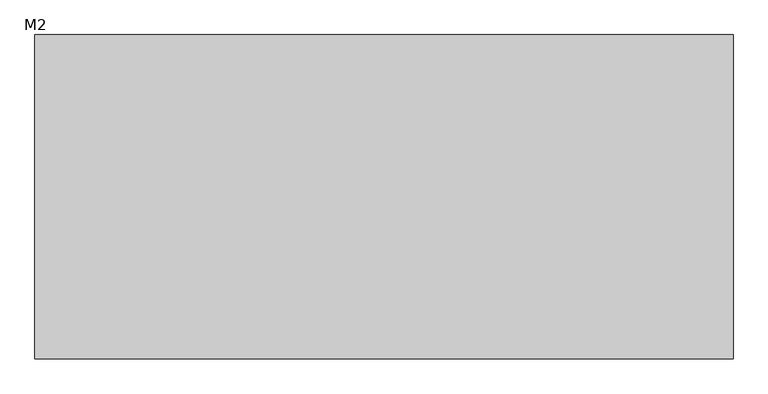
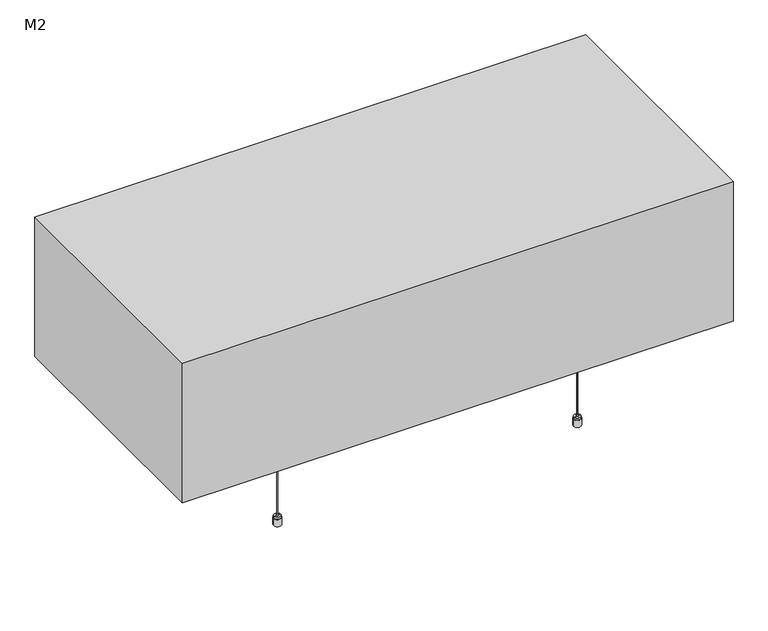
"""IFC4 building model written with IfcOpenShell, lengths in millimetres: proxy geometry, OWA Corpus : M2."""

from ifc_helpers import new_model, si_unit, point, frame, frame_2d, origin, place, context, project, spatial, polyline, circle_curve, trimmed, segment, composite_curve, outline, extrude, faceted_brep, source, transform, mapped, element, save
from ifc_brep_helpers import plane_surface, cylinder_surface, revolved_surface, advanced_brep


def m2_2ed46d6e(model_context):
    return source(origin(), model_context, "Body", "SolidModel", [
        advanced_brep(
        [(-128.5, -152.5, 0.0), (-120.7593825, -152.5, 0.0), (-136.2406175, -152.5, 0.0), (-120.7593825, -152.5, 15.0), (-136.2406175, -152.5, 15.0), (-121.6843825, -152.5, 15.0), (-135.3156175, -152.5, 15.0), (-121.6843825, -152.5, 19.0), (-135.3156175, -152.5, 19.0), (-126.4343825, -152.5, 19.0), (-130.5656175, -152.5, 19.0), (-126.4343825, -152.5, 22.546183), (-130.5656175, -152.5, 22.546183), (-128.5, -152.5, 22.546183)],
        [
            (0, 1),
            (1, 2, circle_curve(frame((-128.5, -152.5, 0.0), z_axis=(0.0, 0.0, -1.0), x_axis=(-1.0, 0.0, 0.0)), 7.7406175)),
            (2, 0),
            (2, 1, circle_curve(frame((-128.5, -152.5, 0.0), z_axis=(0.0, 0.0, -1.0), x_axis=(-1.0, 0.0, 0.0)), 7.7406175)),
            (1, 3),
            (3, 4, circle_curve(frame((-128.5, -152.5, 15.0), z_axis=(0.0, 0.0, -1.0), x_axis=(-1.0, 0.0, 0.0)), 7.7406175)),
            (4, 2),
            (4, 3, circle_curve(frame((-128.5, -152.5, 15.0), z_axis=(0.0, 0.0, -1.0), x_axis=(-1.0, 0.0, 0.0)), 7.7406175)),
            (3, 5),
            (5, 6, circle_curve(frame((-128.5, -152.5, 15.0), z_axis=(0.0, 0.0, -1.0), x_axis=(-1.0, 0.0, 0.0)), 6.8156175)),
            (6, 4),
            (6, 5, circle_curve(frame((-128.5, -152.5, 15.0), z_axis=(0.0, 0.0, -1.0), x_axis=(-1.0, 0.0, 0.0)), 6.8156175)),
            (5, 7),
            (7, 8, circle_curve(frame((-128.5, -152.5, 19.0), z_axis=(0.0, 0.0, -1.0), x_axis=(-1.0, 0.0, 0.0)), 6.8156175)),
            (8, 6),
            (8, 7, circle_curve(frame((-128.5, -152.5, 19.0), z_axis=(0.0, 0.0, -1.0), x_axis=(-1.0, 0.0, 0.0)), 6.8156175)),
            (7, 9),
            (9, 10, circle_curve(frame((-128.5, -152.5, 19.0), z_axis=(0.0, 0.0, -1.0), x_axis=(-1.0, 0.0, 0.0)), 2.0656175)),
            (10, 8),
            (10, 9, circle_curve(frame((-128.5, -152.5, 19.0), z_axis=(0.0, 0.0, -1.0), x_axis=(-1.0, 0.0, 0.0)), 2.0656175)),
            (9, 11),
            (11, 12, circle_curve(frame((-128.5, -152.5, 22.546183), z_axis=(0.0, 0.0, -1.0), x_axis=(-1.0, 0.0, 0.0)), 2.0656175)),
            (12, 10),
            (12, 11, circle_curve(frame((-128.5, -152.5, 22.546183), z_axis=(0.0, 0.0, -1.0), x_axis=(-1.0, 0.0, 0.0)), 2.0656175)),
            (11, 13),
            (13, 12),
        ],
        [
            plane_surface(frame((-128.5, -152.5, 0.0), z_axis=(0.0, 0.0, -1.0), x_axis=(-1.0, 0.0, 0.0))),
            cylinder_surface(frame((-128.5, -152.5, -10.0), z_axis=(0.0, 0.0, -1.0), x_axis=(-1.0, 0.0, 0.0)), 7.7406175),
            plane_surface(frame((-128.5, -152.5, 15.0), z_axis=(0.0, 0.0, 1.0), x_axis=(-1.0, 0.0, 0.0))),
            cylinder_surface(frame((-128.5, -152.5, -10.0), z_axis=(0.0, 0.0, -1.0), x_axis=(-1.0, 0.0, 0.0)), 6.8156175),
            plane_surface(frame((-128.5, -152.5, 19.0), z_axis=(0.0, 0.0, 1.0), x_axis=(-1.0, 0.0, 0.0))),
            cylinder_surface(frame((-128.5, -152.5, -10.0), z_axis=(0.0, 0.0, -1.0), x_axis=(-1.0, 0.0, 0.0)), 2.0656175),
            plane_surface(frame((-128.5, -152.5, 22.546183), z_axis=(0.0, 0.0, 1.0), x_axis=(-1.0, 0.0, 0.0))),
        ],
        [
            (0, [[1, 2, 3]]),
            (0, [[-3, 4, -1]]),
            (1, [[5, 6, 7, -2]]),
            (1, [[-7, 8, -5, -4]]),
            (2, [[9, 10, 11, -6]]),
            (2, [[-11, 12, -9, -8]]),
            (3, [[13, 14, 15, -10]]),
            (3, [[-15, 16, -13, -12]]),
            (4, [[17, 18, 19, -14]]),
            (4, [[-19, 20, -17, -16]]),
            (5, [[21, 22, 23, -18]]),
            (5, [[-23, 24, -21, -20]]),
            (6, [[25, 26, -22]]),
            (6, [[-26, -25, -24]]),
        ],
    ),
        advanced_brep(
        [(-126.2615389, -152.5, 428.8211737), (-126.1339453, -152.5, 432.8711737), (-130.8660547, -152.5, 432.8711737), (-130.7384611, -152.5, 428.8211737), (-123.6339453, -152.5, 432.8711737), (-133.3660547, -152.5, 432.8711737), (-123.6339453, -152.5, 458.1211737), (-133.3660547, -152.5, 458.1211737), (-112.6339453, -152.5, 458.1211737), (-144.3660547, -152.5, 458.1211737), (-112.6339453, -152.5, 460.0), (-144.3660547, -152.5, 460.0), (-128.5, -152.5, 460.0), (-128.5, -152.5, 428.8211737)],
        [
            (0, 1),
            (1, 2, circle_curve(frame((-128.5, -152.5, 432.8711737), z_axis=(0.0, 0.0, -1.0), x_axis=(-1.0, 0.0, 0.0)), 2.3660547)),
            (2, 3),
            (3, 0, circle_curve(frame((-128.5, -152.5, 428.8211737), z_axis=(0.0, 0.0, 1.0), x_axis=(-1.0, 0.0, 0.0)), 2.2384611)),
            (2, 1, circle_curve(frame((-128.5, -152.5, 432.8711737), z_axis=(0.0, 0.0, -1.0), x_axis=(-1.0, 0.0, 0.0)), 2.3660547)),
            (0, 3, circle_curve(frame((-128.5, -152.5, 428.8211737), z_axis=(0.0, 0.0, 1.0), x_axis=(-1.0, 0.0, 0.0)), 2.2384611)),
            (1, 4),
            (4, 5, circle_curve(frame((-128.5, -152.5, 432.8711737), z_axis=(0.0, 0.0, -1.0), x_axis=(-1.0, 0.0, 0.0)), 4.8660547)),
            (5, 2),
            (5, 4, circle_curve(frame((-128.5, -152.5, 432.8711737), z_axis=(0.0, 0.0, -1.0), x_axis=(-1.0, 0.0, 0.0)), 4.8660547)),
            (4, 6),
            (6, 7, circle_curve(frame((-128.5, -152.5, 458.1211737), z_axis=(0.0, 0.0, -1.0), x_axis=(-1.0, 0.0, 0.0)), 4.8660547)),
            (7, 5),
            (7, 6, circle_curve(frame((-128.5, -152.5, 458.1211737), z_axis=(0.0, 0.0, -1.0), x_axis=(-1.0, 0.0, 0.0)), 4.8660547)),
            (6, 8),
            (8, 9, circle_curve(frame((-128.5, -152.5, 458.1211737), z_axis=(0.0, 0.0, -1.0), x_axis=(-1.0, 0.0, 0.0)), 15.8660547)),
            (9, 7),
            (9, 8, circle_curve(frame((-128.5, -152.5, 458.1211737), z_axis=(0.0, 0.0, -1.0), x_axis=(-1.0, 0.0, 0.0)), 15.8660547)),
            (8, 10),
            (10, 11, circle_curve(frame((-128.5, -152.5, 460.0), z_axis=(0.0, 0.0, -1.0), x_axis=(-1.0, 0.0, 0.0)), 15.8660547)),
            (11, 9),
            (11, 10, circle_curve(frame((-128.5, -152.5, 460.0), z_axis=(0.0, 0.0, -1.0), x_axis=(-1.0, 0.0, 0.0)), 15.8660547)),
            (10, 12),
            (12, 11),
            (13, 0),
            (3, 13),
        ],
        [
            revolved_surface(polyline([(-130.8660547, -152.5, 432.8711737), (-130.7384611, -152.5, 428.8211737)]), (-128.5, -152.5, 461.8401096), (0.0, 0.0, -1.0)),
            plane_surface(frame((-128.5, -152.5, 432.8711737), z_axis=(0.0, 0.0, -1.0), x_axis=(-1.0, 0.0, 0.0))),
            cylinder_surface(frame((-128.5, -152.5, 461.8401096), z_axis=(0.0, 0.0, -1.0), x_axis=(-1.0, 0.0, 0.0)), 4.8660547),
            plane_surface(frame((-128.5, -152.5, 458.1211737), z_axis=(0.0, 0.0, -1.0), x_axis=(-1.0, 0.0, 0.0))),
            cylinder_surface(frame((-128.5, -152.5, 461.8401096), z_axis=(0.0, 0.0, -1.0), x_axis=(-1.0, 0.0, 0.0)), 15.8660547),
            plane_surface(frame((-128.5, -152.5, 460.0), z_axis=(0.0, 0.0, 1.0), x_axis=(-1.0, 0.0, 0.0))),
            plane_surface(frame((-128.5, -152.5, 428.8211737), z_axis=(0.0, 0.0, -1.0), x_axis=(-1.0, 0.0, 0.0))),
        ],
        [
            (0, [[1, 2, 3, 4]]),
            (0, [[-3, 5, -1, 6]]),
            (1, [[7, 8, 9, -2]]),
            (1, [[-9, 10, -7, -5]]),
            (2, [[11, 12, 13, -8]]),
            (2, [[-13, 14, -11, -10]]),
            (3, [[15, 16, 17, -12]]),
            (3, [[-17, 18, -15, -14]]),
            (4, [[19, 20, 21, -16]]),
            (4, [[-21, 22, -19, -18]]),
            (5, [[23, 24, -20]]),
            (5, [[-24, -23, -22]]),
            (6, [[25, -4, 26]]),
            (6, [[-26, -6, -25]]),
        ],
    ),
        extrude(outline(composite_curve([segment(trimmed(circle_curve(frame_2d((-128.5, -152.5)), 1.0), [point((-129.5, -152.5))], [point((-127.5, -152.5))], False, "CARTESIAN"), True, "CONTINUOUS"), segment(trimmed(circle_curve(frame_2d((-128.5, -152.5)), 1.0), [point((-127.5, -152.5))], [point((-129.5, -152.5))], False, "CARTESIAN"), True, "CONTINUOUS")], self_intersect=False)), frame((0.0, 0.0, 22.546183), z_axis=(0.0, 0.0, 1.0), x_axis=(1.0, 0.0, 0.0)), (0.0, 0.0, 1.0), 406.2749908),
        advanced_brep(
        [(-128.5, 152.5, 0.0), (-136.2406175, 152.5, 0.0), (-120.7593825, 152.5, 0.0), (-136.2406175, 152.5, 15.0), (-120.7593825, 152.5, 15.0), (-135.3156175, 152.5, 15.0), (-121.6843825, 152.5, 15.0), (-135.3156175, 152.5, 19.0), (-121.6843825, 152.5, 19.0), (-130.5656175, 152.5, 19.0), (-126.4343825, 152.5, 19.0), (-130.5656175, 152.5, 22.546183), (-126.4343825, 152.5, 22.546183), (-128.5, 152.5, 22.546183)],
        [
            (0, 1),
            (1, 2, circle_curve(frame((-128.5, 152.5, 0.0), z_axis=(0.0, 0.0, -1.0), x_axis=(-1.0, 0.0, 0.0)), 7.7406175)),
            (2, 0),
            (2, 1, circle_curve(frame((-128.5, 152.5, 0.0), z_axis=(0.0, 0.0, -1.0), x_axis=(-1.0, 0.0, 0.0)), 7.7406175)),
            (1, 3),
            (3, 4, circle_curve(frame((-128.5, 152.5, 15.0), z_axis=(0.0, 0.0, -1.0), x_axis=(-1.0, 0.0, 0.0)), 7.7406175)),
            (4, 2),
            (4, 3, circle_curve(frame((-128.5, 152.5, 15.0), z_axis=(0.0, 0.0, -1.0), x_axis=(-1.0, 0.0, 0.0)), 7.7406175)),
            (3, 5),
            (5, 6, circle_curve(frame((-128.5, 152.5, 15.0), z_axis=(0.0, 0.0, -1.0), x_axis=(-1.0, 0.0, 0.0)), 6.8156175)),
            (6, 4),
            (6, 5, circle_curve(frame((-128.5, 152.5, 15.0), z_axis=(0.0, 0.0, -1.0), x_axis=(-1.0, 0.0, 0.0)), 6.8156175)),
            (5, 7),
            (7, 8, circle_curve(frame((-128.5, 152.5, 19.0), z_axis=(0.0, 0.0, -1.0), x_axis=(-1.0, 0.0, 0.0)), 6.8156175)),
            (8, 6),
            (8, 7, circle_curve(frame((-128.5, 152.5, 19.0), z_axis=(0.0, 0.0, -1.0), x_axis=(-1.0, 0.0, 0.0)), 6.8156175)),
            (7, 9),
            (9, 10, circle_curve(frame((-128.5, 152.5, 19.0), z_axis=(0.0, 0.0, -1.0), x_axis=(-1.0, 0.0, 0.0)), 2.0656175)),
            (10, 8),
            (10, 9, circle_curve(frame((-128.5, 152.5, 19.0), z_axis=(0.0, 0.0, -1.0), x_axis=(-1.0, 0.0, 0.0)), 2.0656175)),
            (9, 11),
            (11, 12, circle_curve(frame((-128.5, 152.5, 22.546183), z_axis=(0.0, 0.0, -1.0), x_axis=(-1.0, 0.0, 0.0)), 2.0656175)),
            (12, 10),
            (12, 11, circle_curve(frame((-128.5, 152.5, 22.546183), z_axis=(0.0, 0.0, -1.0), x_axis=(-1.0, 0.0, 0.0)), 2.0656175)),
            (11, 13),
            (13, 12),
        ],
        [
            plane_surface(frame((-128.5, 152.5, 0.0), z_axis=(0.0, 0.0, -1.0), x_axis=(-1.0, 0.0, 0.0))),
            cylinder_surface(frame((-128.5, 152.5, -10.0), z_axis=(0.0, 0.0, -1.0), x_axis=(-1.0, 0.0, 0.0)), 7.7406175),
            plane_surface(frame((-128.5, 152.5, 15.0), z_axis=(0.0, 0.0, 1.0), x_axis=(-1.0, 0.0, 0.0))),
            cylinder_surface(frame((-128.5, 152.5, -10.0), z_axis=(0.0, 0.0, -1.0), x_axis=(-1.0, 0.0, 0.0)), 6.8156175),
            plane_surface(frame((-128.5, 152.5, 19.0), z_axis=(0.0, 0.0, 1.0), x_axis=(-1.0, 0.0, 0.0))),
            cylinder_surface(frame((-128.5, 152.5, -10.0), z_axis=(0.0, 0.0, -1.0), x_axis=(-1.0, 0.0, 0.0)), 2.0656175),
            plane_surface(frame((-128.5, 152.5, 22.546183), z_axis=(0.0, 0.0, 1.0), x_axis=(-1.0, 0.0, 0.0))),
        ],
        [
            (0, [[1, 2, 3]]),
            (0, [[-3, 4, -1]]),
            (1, [[-2, 5, 6, 7]]),
            (1, [[-4, -7, 8, -5]]),
            (2, [[-6, 9, 10, 11]]),
            (2, [[-8, -11, 12, -9]]),
            (3, [[-10, 13, 14, 15]]),
            (3, [[-12, -15, 16, -13]]),
            (4, [[-14, 17, 18, 19]]),
            (4, [[-16, -19, 20, -17]]),
            (5, [[-18, 21, 22, 23]]),
            (5, [[-20, -23, 24, -21]]),
            (6, [[-22, 25, 26]]),
            (6, [[-24, -26, -25]]),
        ],
    ),
        advanced_brep(
        [(-126.2615389, 152.5, 428.8211737), (-130.7384611, 152.5, 428.8211737), (-130.8660547, 152.5, 432.8711737), (-126.1339453, 152.5, 432.8711737), (-133.3660547, 152.5, 432.8711737), (-123.6339453, 152.5, 432.8711737), (-133.3660547, 152.5, 458.1211737), (-123.6339453, 152.5, 458.1211737), (-144.3660547, 152.5, 458.1211737), (-112.6339453, 152.5, 458.1211737), (-144.3660547, 152.5, 460.0), (-112.6339453, 152.5, 460.0), (-128.5, 152.5, 460.0), (-128.5, 152.5, 428.8211737)],
        [
            (0, 1, circle_curve(frame((-128.5, 152.5, 428.8211737), z_axis=(0.0, 0.0, 1.0), x_axis=(-1.0, 0.0, 0.0)), 2.2384611)),
            (1, 2),
            (2, 3, circle_curve(frame((-128.5, 152.5, 432.8711737), z_axis=(0.0, 0.0, -1.0), x_axis=(-1.0, 0.0, 0.0)), 2.3660547)),
            (3, 0),
            (1, 0, circle_curve(frame((-128.5, 152.5, 428.8211737), z_axis=(0.0, 0.0, 1.0), x_axis=(-1.0, 0.0, 0.0)), 2.2384611)),
            (3, 2, circle_curve(frame((-128.5, 152.5, 432.8711737), z_axis=(0.0, 0.0, -1.0), x_axis=(-1.0, 0.0, 0.0)), 2.3660547)),
            (2, 4),
            (4, 5, circle_curve(frame((-128.5, 152.5, 432.8711737), z_axis=(0.0, 0.0, -1.0), x_axis=(-1.0, 0.0, 0.0)), 4.8660547)),
            (5, 3),
            (5, 4, circle_curve(frame((-128.5, 152.5, 432.8711737), z_axis=(0.0, 0.0, -1.0), x_axis=(-1.0, 0.0, 0.0)), 4.8660547)),
            (4, 6),
            (6, 7, circle_curve(frame((-128.5, 152.5, 458.1211737), z_axis=(0.0, 0.0, -1.0), x_axis=(-1.0, 0.0, 0.0)), 4.8660547)),
            (7, 5),
            (7, 6, circle_curve(frame((-128.5, 152.5, 458.1211737), z_axis=(0.0, 0.0, -1.0), x_axis=(-1.0, 0.0, 0.0)), 4.8660547)),
            (6, 8),
            (8, 9, circle_curve(frame((-128.5, 152.5, 458.1211737), z_axis=(0.0, 0.0, -1.0), x_axis=(-1.0, 0.0, 0.0)), 15.8660547)),
            (9, 7),
            (9, 8, circle_curve(frame((-128.5, 152.5, 458.1211737), z_axis=(0.0, 0.0, -1.0), x_axis=(-1.0, 0.0, 0.0)), 15.8660547)),
            (8, 10),
            (10, 11, circle_curve(frame((-128.5, 152.5, 460.0), z_axis=(0.0, 0.0, -1.0), x_axis=(-1.0, 0.0, 0.0)), 15.8660547)),
            (11, 9),
            (11, 10, circle_curve(frame((-128.5, 152.5, 460.0), z_axis=(0.0, 0.0, -1.0), x_axis=(-1.0, 0.0, 0.0)), 15.8660547)),
            (10, 12),
            (12, 11),
            (13, 1),
            (0, 13),
        ],
        [
            revolved_surface(polyline([(-130.8660547, 152.5, 432.8711737), (-130.7384611, 152.5, 428.8211737)]), (-128.5, 152.5, 461.8401096), (0.0, 0.0, -1.0)),
            plane_surface(frame((-128.5, 152.5, 432.8711737), z_axis=(0.0, 0.0, -1.0), x_axis=(-1.0, 0.0, 0.0))),
            cylinder_surface(frame((-128.5, 152.5, 461.8401096), z_axis=(0.0, 0.0, -1.0), x_axis=(-1.0, 0.0, 0.0)), 4.8660547),
            plane_surface(frame((-128.5, 152.5, 458.1211737), z_axis=(0.0, 0.0, -1.0), x_axis=(-1.0, 0.0, 0.0))),
            cylinder_surface(frame((-128.5, 152.5, 461.8401096), z_axis=(0.0, 0.0, -1.0), x_axis=(-1.0, 0.0, 0.0)), 15.8660547),
            plane_surface(frame((-128.5, 152.5, 460.0), z_axis=(0.0, 0.0, 1.0), x_axis=(-1.0, 0.0, 0.0))),
            plane_surface(frame((-128.5, 152.5, 428.8211737), z_axis=(0.0, 0.0, -1.0), x_axis=(-1.0, 0.0, 0.0))),
        ],
        [
            (0, [[1, 2, 3, 4]]),
            (0, [[5, -4, 6, -2]]),
            (1, [[-3, 7, 8, 9]]),
            (1, [[-6, -9, 10, -7]]),
            (2, [[-8, 11, 12, 13]]),
            (2, [[-10, -13, 14, -11]]),
            (3, [[-12, 15, 16, 17]]),
            (3, [[-14, -17, 18, -15]]),
            (4, [[-16, 19, 20, 21]]),
            (4, [[-18, -21, 22, -19]]),
            (5, [[-20, 23, 24]]),
            (5, [[-22, -24, -23]]),
            (6, [[25, -1, 26]]),
            (6, [[-26, -5, -25]]),
        ],
    ),
        extrude(outline(composite_curve([segment(trimmed(circle_curve(frame_2d((-128.5, 152.5)), 1.0), [point((-129.5, 152.5))], [point((-127.5, 152.5))], False, "CARTESIAN"), True, "CONTINUOUS"), segment(trimmed(circle_curve(frame_2d((-128.5, 152.5)), 1.0), [point((-127.5, 152.5))], [point((-129.5, 152.5))], False, "CARTESIAN"), True, "CONTINUOUS")], self_intersect=False)), frame((0.0, 0.0, 22.546183), z_axis=(0.0, 0.0, 1.0), x_axis=(1.0, 0.0, 0.0)), (0.0, 0.0, 1.0), 406.2749908),
        advanced_brep(
        [(-738.5, -152.5, 0.0), (-730.7593825, -152.5, 0.0), (-746.2406175, -152.5, 0.0), (-730.7593825, -152.5, 15.0), (-746.2406175, -152.5, 15.0), (-731.6843825, -152.5, 15.0), (-745.3156175, -152.5, 15.0), (-731.6843825, -152.5, 19.0), (-745.3156175, -152.5, 19.0), (-736.4343825, -152.5, 19.0), (-740.5656175, -152.5, 19.0), (-736.4343825, -152.5, 22.546183), (-740.5656175, -152.5, 22.546183), (-738.5, -152.5, 22.546183)],
        [
            (0, 1),
            (1, 2, circle_curve(frame((-738.5, -152.5, 0.0), z_axis=(0.0, 0.0, -1.0), x_axis=(-1.0, 0.0, 0.0)), 7.7406175)),
            (2, 0),
            (2, 1, circle_curve(frame((-738.5, -152.5, 0.0), z_axis=(0.0, 0.0, -1.0), x_axis=(-1.0, 0.0, 0.0)), 7.7406175)),
            (1, 3),
            (3, 4, circle_curve(frame((-738.5, -152.5, 15.0), z_axis=(0.0, 0.0, -1.0), x_axis=(-1.0, 0.0, 0.0)), 7.7406175)),
            (4, 2),
            (4, 3, circle_curve(frame((-738.5, -152.5, 15.0), z_axis=(0.0, 0.0, -1.0), x_axis=(-1.0, 0.0, 0.0)), 7.7406175)),
            (3, 5),
            (5, 6, circle_curve(frame((-738.5, -152.5, 15.0), z_axis=(0.0, 0.0, -1.0), x_axis=(-1.0, 0.0, 0.0)), 6.8156175)),
            (6, 4),
            (6, 5, circle_curve(frame((-738.5, -152.5, 15.0), z_axis=(0.0, 0.0, -1.0), x_axis=(-1.0, 0.0, 0.0)), 6.8156175)),
            (5, 7),
            (7, 8, circle_curve(frame((-738.5, -152.5, 19.0), z_axis=(0.0, 0.0, -1.0), x_axis=(-1.0, 0.0, 0.0)), 6.8156175)),
            (8, 6),
            (8, 7, circle_curve(frame((-738.5, -152.5, 19.0), z_axis=(0.0, 0.0, -1.0), x_axis=(-1.0, 0.0, 0.0)), 6.8156175)),
            (7, 9),
            (9, 10, circle_curve(frame((-738.5, -152.5, 19.0), z_axis=(0.0, 0.0, -1.0), x_axis=(-1.0, 0.0, 0.0)), 2.0656175)),
            (10, 8),
            (10, 9, circle_curve(frame((-738.5, -152.5, 19.0), z_axis=(0.0, 0.0, -1.0), x_axis=(-1.0, 0.0, 0.0)), 2.0656175)),
            (9, 11),
            (11, 12, circle_curve(frame((-738.5, -152.5, 22.546183), z_axis=(0.0, 0.0, -1.0), x_axis=(-1.0, 0.0, 0.0)), 2.0656175)),
            (12, 10),
            (12, 11, circle_curve(frame((-738.5, -152.5, 22.546183), z_axis=(0.0, 0.0, -1.0), x_axis=(-1.0, 0.0, 0.0)), 2.0656175)),
            (11, 13),
            (13, 12),
        ],
        [
            plane_surface(frame((-738.5, -152.5, 0.0), z_axis=(0.0, 0.0, -1.0), x_axis=(-1.0, 0.0, 0.0))),
            cylinder_surface(frame((-738.5, -152.5, -10.0), z_axis=(0.0, 0.0, -1.0), x_axis=(-1.0, 0.0, 0.0)), 7.7406175),
            plane_surface(frame((-738.5, -152.5, 15.0), z_axis=(0.0, 0.0, 1.0), x_axis=(-1.0, 0.0, 0.0))),
            cylinder_surface(frame((-738.5, -152.5, -10.0), z_axis=(0.0, 0.0, -1.0), x_axis=(-1.0, 0.0, 0.0)), 6.8156175),
            plane_surface(frame((-738.5, -152.5, 19.0), z_axis=(0.0, 0.0, 1.0), x_axis=(-1.0, 0.0, 0.0))),
            cylinder_surface(frame((-738.5, -152.5, -10.0), z_axis=(0.0, 0.0, -1.0), x_axis=(-1.0, 0.0, 0.0)), 2.0656175),
            plane_surface(frame((-738.5, -152.5, 22.546183), z_axis=(0.0, 0.0, 1.0), x_axis=(-1.0, 0.0, 0.0))),
        ],
        [
            (0, [[1, 2, 3]]),
            (0, [[-3, 4, -1]]),
            (1, [[5, 6, 7, -2]]),
            (1, [[-7, 8, -5, -4]]),
            (2, [[9, 10, 11, -6]]),
            (2, [[-11, 12, -9, -8]]),
            (3, [[13, 14, 15, -10]]),
            (3, [[-15, 16, -13, -12]]),
            (4, [[17, 18, 19, -14]]),
            (4, [[-19, 20, -17, -16]]),
            (5, [[21, 22, 23, -18]]),
            (5, [[-23, 24, -21, -20]]),
            (6, [[25, 26, -22]]),
            (6, [[-26, -25, -24]]),
        ],
    ),
        advanced_brep(
        [(-736.2615389, -152.5, 428.8211737), (-736.1339453, -152.5, 432.8711737), (-740.8660547, -152.5, 432.8711737), (-740.7384611, -152.5, 428.8211737), (-733.6339453, -152.5, 432.8711737), (-743.3660547, -152.5, 432.8711737), (-733.6339453, -152.5, 458.1211737), (-743.3660547, -152.5, 458.1211737), (-722.6339453, -152.5, 458.1211737), (-754.3660547, -152.5, 458.1211737), (-722.6339453, -152.5, 460.0), (-754.3660547, -152.5, 460.0), (-738.5, -152.5, 460.0), (-738.5, -152.5, 428.8211737)],
        [
            (0, 1),
            (1, 2, circle_curve(frame((-738.5, -152.5, 432.8711737), z_axis=(0.0, 0.0, -1.0), x_axis=(-1.0, 0.0, 0.0)), 2.3660547)),
            (2, 3),
            (3, 0, circle_curve(frame((-738.5, -152.5, 428.8211737), z_axis=(0.0, 0.0, 1.0), x_axis=(-1.0, 0.0, 0.0)), 2.2384611)),
            (2, 1, circle_curve(frame((-738.5, -152.5, 432.8711737), z_axis=(0.0, 0.0, -1.0), x_axis=(-1.0, 0.0, 0.0)), 2.3660547)),
            (0, 3, circle_curve(frame((-738.5, -152.5, 428.8211737), z_axis=(0.0, 0.0, 1.0), x_axis=(-1.0, 0.0, 0.0)), 2.2384611)),
            (1, 4),
            (4, 5, circle_curve(frame((-738.5, -152.5, 432.8711737), z_axis=(0.0, 0.0, -1.0), x_axis=(-1.0, 0.0, 0.0)), 4.8660547)),
            (5, 2),
            (5, 4, circle_curve(frame((-738.5, -152.5, 432.8711737), z_axis=(0.0, 0.0, -1.0), x_axis=(-1.0, 0.0, 0.0)), 4.8660547)),
            (4, 6),
            (6, 7, circle_curve(frame((-738.5, -152.5, 458.1211737), z_axis=(0.0, 0.0, -1.0), x_axis=(-1.0, 0.0, 0.0)), 4.8660547)),
            (7, 5),
            (7, 6, circle_curve(frame((-738.5, -152.5, 458.1211737), z_axis=(0.0, 0.0, -1.0), x_axis=(-1.0, 0.0, 0.0)), 4.8660547)),
            (6, 8),
            (8, 9, circle_curve(frame((-738.5, -152.5, 458.1211737), z_axis=(0.0, 0.0, -1.0), x_axis=(-1.0, 0.0, 0.0)), 15.8660547)),
            (9, 7),
            (9, 8, circle_curve(frame((-738.5, -152.5, 458.1211737), z_axis=(0.0, 0.0, -1.0), x_axis=(-1.0, 0.0, 0.0)), 15.8660547)),
            (8, 10),
            (10, 11, circle_curve(frame((-738.5, -152.5, 460.0), z_axis=(0.0, 0.0, -1.0), x_axis=(-1.0, 0.0, 0.0)), 15.8660547)),
            (11, 9),
            (11, 10, circle_curve(frame((-738.5, -152.5, 460.0), z_axis=(0.0, 0.0, -1.0), x_axis=(-1.0, 0.0, 0.0)), 15.8660547)),
            (10, 12),
            (12, 11),
            (13, 0),
            (3, 13),
        ],
        [
            revolved_surface(polyline([(-740.8660547, -152.5, 432.8711737), (-740.7384611, -152.5, 428.8211737)]), (-738.5, -152.5, 461.8401096), (0.0, 0.0, -1.0)),
            plane_surface(frame((-738.5, -152.5, 432.8711737), z_axis=(0.0, 0.0, -1.0), x_axis=(-1.0, 0.0, 0.0))),
            cylinder_surface(frame((-738.5, -152.5, 461.8401096), z_axis=(0.0, 0.0, -1.0), x_axis=(-1.0, 0.0, 0.0)), 4.8660547),
            plane_surface(frame((-738.5, -152.5, 458.1211737), z_axis=(0.0, 0.0, -1.0), x_axis=(-1.0, 0.0, 0.0))),
            cylinder_surface(frame((-738.5, -152.5, 461.8401096), z_axis=(0.0, 0.0, -1.0), x_axis=(-1.0, 0.0, 0.0)), 15.8660547),
            plane_surface(frame((-738.5, -152.5, 460.0), z_axis=(0.0, 0.0, 1.0), x_axis=(-1.0, 0.0, 0.0))),
            plane_surface(frame((-738.5, -152.5, 428.8211737), z_axis=(0.0, 0.0, -1.0), x_axis=(-1.0, 0.0, 0.0))),
        ],
        [
            (0, [[1, 2, 3, 4]]),
            (0, [[-3, 5, -1, 6]]),
            (1, [[7, 8, 9, -2]]),
            (1, [[-9, 10, -7, -5]]),
            (2, [[11, 12, 13, -8]]),
            (2, [[-13, 14, -11, -10]]),
            (3, [[15, 16, 17, -12]]),
            (3, [[-17, 18, -15, -14]]),
            (4, [[19, 20, 21, -16]]),
            (4, [[-21, 22, -19, -18]]),
            (5, [[23, 24, -20]]),
            (5, [[-24, -23, -22]]),
            (6, [[25, -4, 26]]),
            (6, [[-26, -6, -25]]),
        ],
    ),
        extrude(outline(composite_curve([segment(trimmed(circle_curve(frame_2d((-738.5, -152.5)), 1.0), [point((-739.5, -152.5))], [point((-737.5, -152.5))], False, "CARTESIAN"), True, "CONTINUOUS"), segment(trimmed(circle_curve(frame_2d((-738.5, -152.5)), 1.0), [point((-737.5, -152.5))], [point((-739.5, -152.5))], False, "CARTESIAN"), True, "CONTINUOUS")], self_intersect=False)), frame((0.0, 0.0, 22.546183), z_axis=(0.0, 0.0, 1.0), x_axis=(1.0, 0.0, 0.0)), (0.0, 0.0, 1.0), 406.2749908),
        advanced_brep(
        [(-738.5, 152.5, 0.0), (-746.2406175, 152.5, 0.0), (-730.7593825, 152.5, 0.0), (-746.2406175, 152.5, 15.0), (-730.7593825, 152.5, 15.0), (-745.3156175, 152.5, 15.0), (-731.6843825, 152.5, 15.0), (-745.3156175, 152.5, 19.0), (-731.6843825, 152.5, 19.0), (-740.5656175, 152.5, 19.0), (-736.4343825, 152.5, 19.0), (-740.5656175, 152.5, 22.546183), (-736.4343825, 152.5, 22.546183), (-738.5, 152.5, 22.546183)],
        [
            (0, 1),
            (1, 2, circle_curve(frame((-738.5, 152.5, 0.0), z_axis=(0.0, 0.0, -1.0), x_axis=(-1.0, 0.0, 0.0)), 7.7406175)),
            (2, 0),
            (2, 1, circle_curve(frame((-738.5, 152.5, 0.0), z_axis=(0.0, 0.0, -1.0), x_axis=(-1.0, 0.0, 0.0)), 7.7406175)),
            (1, 3),
            (3, 4, circle_curve(frame((-738.5, 152.5, 15.0), z_axis=(0.0, 0.0, -1.0), x_axis=(-1.0, 0.0, 0.0)), 7.7406175)),
            (4, 2),
            (4, 3, circle_curve(frame((-738.5, 152.5, 15.0), z_axis=(0.0, 0.0, -1.0), x_axis=(-1.0, 0.0, 0.0)), 7.7406175)),
            (3, 5),
            (5, 6, circle_curve(frame((-738.5, 152.5, 15.0), z_axis=(0.0, 0.0, -1.0), x_axis=(-1.0, 0.0, 0.0)), 6.8156175)),
            (6, 4),
            (6, 5, circle_curve(frame((-738.5, 152.5, 15.0), z_axis=(0.0, 0.0, -1.0), x_axis=(-1.0, 0.0, 0.0)), 6.8156175)),
            (5, 7),
            (7, 8, circle_curve(frame((-738.5, 152.5, 19.0), z_axis=(0.0, 0.0, -1.0), x_axis=(-1.0, 0.0, 0.0)), 6.8156175)),
            (8, 6),
            (8, 7, circle_curve(frame((-738.5, 152.5, 19.0), z_axis=(0.0, 0.0, -1.0), x_axis=(-1.0, 0.0, 0.0)), 6.8156175)),
            (7, 9),
            (9, 10, circle_curve(frame((-738.5, 152.5, 19.0), z_axis=(0.0, 0.0, -1.0), x_axis=(-1.0, 0.0, 0.0)), 2.0656175)),
            (10, 8),
            (10, 9, circle_curve(frame((-738.5, 152.5, 19.0), z_axis=(0.0, 0.0, -1.0), x_axis=(-1.0, 0.0, 0.0)), 2.0656175)),
            (9, 11),
            (11, 12, circle_curve(frame((-738.5, 152.5, 22.546183), z_axis=(0.0, 0.0, -1.0), x_axis=(-1.0, 0.0, 0.0)), 2.0656175)),
            (12, 10),
            (12, 11, circle_curve(frame((-738.5, 152.5, 22.546183), z_axis=(0.0, 0.0, -1.0), x_axis=(-1.0, 0.0, 0.0)), 2.0656175)),
            (11, 13),
            (13, 12),
        ],
        [
            plane_surface(frame((-738.5, 152.5, 0.0), z_axis=(0.0, 0.0, -1.0), x_axis=(-1.0, 0.0, 0.0))),
            cylinder_surface(frame((-738.5, 152.5, -10.0), z_axis=(0.0, 0.0, -1.0), x_axis=(-1.0, 0.0, 0.0)), 7.7406175),
            plane_surface(frame((-738.5, 152.5, 15.0), z_axis=(0.0, 0.0, 1.0), x_axis=(-1.0, 0.0, 0.0))),
            cylinder_surface(frame((-738.5, 152.5, -10.0), z_axis=(0.0, 0.0, -1.0), x_axis=(-1.0, 0.0, 0.0)), 6.8156175),
            plane_surface(frame((-738.5, 152.5, 19.0), z_axis=(0.0, 0.0, 1.0), x_axis=(-1.0, 0.0, 0.0))),
            cylinder_surface(frame((-738.5, 152.5, -10.0), z_axis=(0.0, 0.0, -1.0), x_axis=(-1.0, 0.0, 0.0)), 2.0656175),
            plane_surface(frame((-738.5, 152.5, 22.546183), z_axis=(0.0, 0.0, 1.0), x_axis=(-1.0, 0.0, 0.0))),
        ],
        [
            (0, [[1, 2, 3]]),
            (0, [[-3, 4, -1]]),
            (1, [[-2, 5, 6, 7]]),
            (1, [[-4, -7, 8, -5]]),
            (2, [[-6, 9, 10, 11]]),
            (2, [[-8, -11, 12, -9]]),
            (3, [[-10, 13, 14, 15]]),
            (3, [[-12, -15, 16, -13]]),
            (4, [[-14, 17, 18, 19]]),
            (4, [[-16, -19, 20, -17]]),
            (5, [[-18, 21, 22, 23]]),
            (5, [[-20, -23, 24, -21]]),
            (6, [[-22, 25, 26]]),
            (6, [[-24, -26, -25]]),
        ],
    ),
        advanced_brep(
        [(-736.2615389, 152.5, 428.8211737), (-740.7384611, 152.5, 428.8211737), (-740.8660547, 152.5, 432.8711737), (-736.1339453, 152.5, 432.8711737), (-743.3660547, 152.5, 432.8711737), (-733.6339453, 152.5, 432.8711737), (-743.3660547, 152.5, 458.1211737), (-733.6339453, 152.5, 458.1211737), (-754.3660547, 152.5, 458.1211737), (-722.6339453, 152.5, 458.1211737), (-754.3660547, 152.5, 460.0), (-722.6339453, 152.5, 460.0), (-738.5, 152.5, 460.0), (-738.5, 152.5, 428.8211737)],
        [
            (0, 1, circle_curve(frame((-738.5, 152.5, 428.8211737), z_axis=(0.0, 0.0, 1.0), x_axis=(-1.0, 0.0, 0.0)), 2.2384611)),
            (1, 2),
            (2, 3, circle_curve(frame((-738.5, 152.5, 432.8711737), z_axis=(0.0, 0.0, -1.0), x_axis=(-1.0, 0.0, 0.0)), 2.3660547)),
            (3, 0),
            (1, 0, circle_curve(frame((-738.5, 152.5, 428.8211737), z_axis=(0.0, 0.0, 1.0), x_axis=(-1.0, 0.0, 0.0)), 2.2384611)),
            (3, 2, circle_curve(frame((-738.5, 152.5, 432.8711737), z_axis=(0.0, 0.0, -1.0), x_axis=(-1.0, 0.0, 0.0)), 2.3660547)),
            (2, 4),
            (4, 5, circle_curve(frame((-738.5, 152.5, 432.8711737), z_axis=(0.0, 0.0, -1.0), x_axis=(-1.0, 0.0, 0.0)), 4.8660547)),
            (5, 3),
            (5, 4, circle_curve(frame((-738.5, 152.5, 432.8711737), z_axis=(0.0, 0.0, -1.0), x_axis=(-1.0, 0.0, 0.0)), 4.8660547)),
            (4, 6),
            (6, 7, circle_curve(frame((-738.5, 152.5, 458.1211737), z_axis=(0.0, 0.0, -1.0), x_axis=(-1.0, 0.0, 0.0)), 4.8660547)),
            (7, 5),
            (7, 6, circle_curve(frame((-738.5, 152.5, 458.1211737), z_axis=(0.0, 0.0, -1.0), x_axis=(-1.0, 0.0, 0.0)), 4.8660547)),
            (6, 8),
            (8, 9, circle_curve(frame((-738.5, 152.5, 458.1211737), z_axis=(0.0, 0.0, -1.0), x_axis=(-1.0, 0.0, 0.0)), 15.8660547)),
            (9, 7),
            (9, 8, circle_curve(frame((-738.5, 152.5, 458.1211737), z_axis=(0.0, 0.0, -1.0), x_axis=(-1.0, 0.0, 0.0)), 15.8660547)),
            (8, 10),
            (10, 11, circle_curve(frame((-738.5, 152.5, 460.0), z_axis=(0.0, 0.0, -1.0), x_axis=(-1.0, 0.0, 0.0)), 15.8660547)),
            (11, 9),
            (11, 10, circle_curve(frame((-738.5, 152.5, 460.0), z_axis=(0.0, 0.0, -1.0), x_axis=(-1.0, 0.0, 0.0)), 15.8660547)),
            (10, 12),
            (12, 11),
            (13, 1),
            (0, 13),
        ],
        [
            revolved_surface(polyline([(-740.8660547, 152.5, 432.8711737), (-740.7384611, 152.5, 428.8211737)]), (-738.5, 152.5, 461.8401096), (0.0, 0.0, -1.0)),
            plane_surface(frame((-738.5, 152.5, 432.8711737), z_axis=(0.0, 0.0, -1.0), x_axis=(-1.0, 0.0, 0.0))),
            cylinder_surface(frame((-738.5, 152.5, 461.8401096), z_axis=(0.0, 0.0, -1.0), x_axis=(-1.0, 0.0, 0.0)), 4.8660547),
            plane_surface(frame((-738.5, 152.5, 458.1211737), z_axis=(0.0, 0.0, -1.0), x_axis=(-1.0, 0.0, 0.0))),
            cylinder_surface(frame((-738.5, 152.5, 461.8401096), z_axis=(0.0, 0.0, -1.0), x_axis=(-1.0, 0.0, 0.0)), 15.8660547),
            plane_surface(frame((-738.5, 152.5, 460.0), z_axis=(0.0, 0.0, 1.0), x_axis=(-1.0, 0.0, 0.0))),
            plane_surface(frame((-738.5, 152.5, 428.8211737), z_axis=(0.0, 0.0, -1.0), x_axis=(-1.0, 0.0, 0.0))),
        ],
        [
            (0, [[1, 2, 3, 4]]),
            (0, [[5, -4, 6, -2]]),
            (1, [[-3, 7, 8, 9]]),
            (1, [[-6, -9, 10, -7]]),
            (2, [[-8, 11, 12, 13]]),
            (2, [[-10, -13, 14, -11]]),
            (3, [[-12, 15, 16, 17]]),
            (3, [[-14, -17, 18, -15]]),
            (4, [[-16, 19, 20, 21]]),
            (4, [[-18, -21, 22, -19]]),
            (5, [[-20, 23, 24]]),
            (5, [[-22, -24, -23]]),
            (6, [[25, -1, 26]]),
            (6, [[-26, -5, -25]]),
        ],
    ),
        extrude(outline(composite_curve([segment(trimmed(circle_curve(frame_2d((-738.5, 152.5)), 1.0), [point((-739.5, 152.5))], [point((-737.5, 152.5))], False, "CARTESIAN"), True, "CONTINUOUS"), segment(trimmed(circle_curve(frame_2d((-738.5, 152.5)), 1.0), [point((-737.5, 152.5))], [point((-739.5, 152.5))], False, "CARTESIAN"), True, "CONTINUOUS")], self_intersect=False)), frame((0.0, 0.0, 22.546183), z_axis=(0.0, 0.0, 1.0), x_axis=(1.0, 0.0, 0.0)), (0.0, 0.0, 1.0), 406.2749908),
        faceted_brep([(126.5, 260.0, 500.0), (-993.5, 260.0, 500.0), (-993.5, -260.0, 500.0), (126.5, -260.0, 500.0), (86.5, 220.0, 460.0), (86.5, -220.0, 460.0), (-953.5, -220.0, 460.0), (-953.5, 220.0, 460.0), (126.5, 260.0, 200.0), (-993.5, 260.0, 200.0), (-993.5, -260.0, 200.0), (126.5, -260.0, 200.0), (86.5, 220.0, 200.0), (-953.5, 220.0, 200.0), (-953.5, -220.0, 200.0), (86.5, -220.0, 200.0)], [[[0, 1, 2, 3]], [[4, 5, 6, 7]], [[1, 0, 8, 9]], [[2, 1, 9, 10]], [[3, 2, 10, 11]], [[8, 0, 3, 11]], [[8, 11, 10, 9], [12, 13, 14, 15]], [[12, 15, 5, 4]], [[15, 14, 6, 5]], [[14, 13, 7, 6]], [[13, 12, 4, 7]]]),
    ])


if __name__ == "__main__":
    model = new_model("IFC4")
    model_context = context("Model", 3, world=origin())
    ifc_project = project(units=[si_unit("LENGTHUNIT", "METRE", prefix="MILLI")], contexts=[model_context])
    site = spatial("IfcSite", under=ifc_project)
    building = spatial("IfcBuilding", under=site)
    placement = place(None, origin())
    m2_shape = m2_2ed46d6e(model_context)
    element("IfcBuildingElementProxy", 1, Name="OWA Corpus : M2", ObjectType="OWA Corpus : M2", at=placement, inside=building, context=model_context, shape_type="MappedRepresentation", body=[
        mapped(m2_shape, transform((0.0, 0.0, 0.0), x_axis=(1.0, 0.0, 0.0), y_axis=(0.0, 1.0, 0.0), z_axis=(0.0, 0.0, 1.0))),
    ])
    save(model, "model.ifc")
